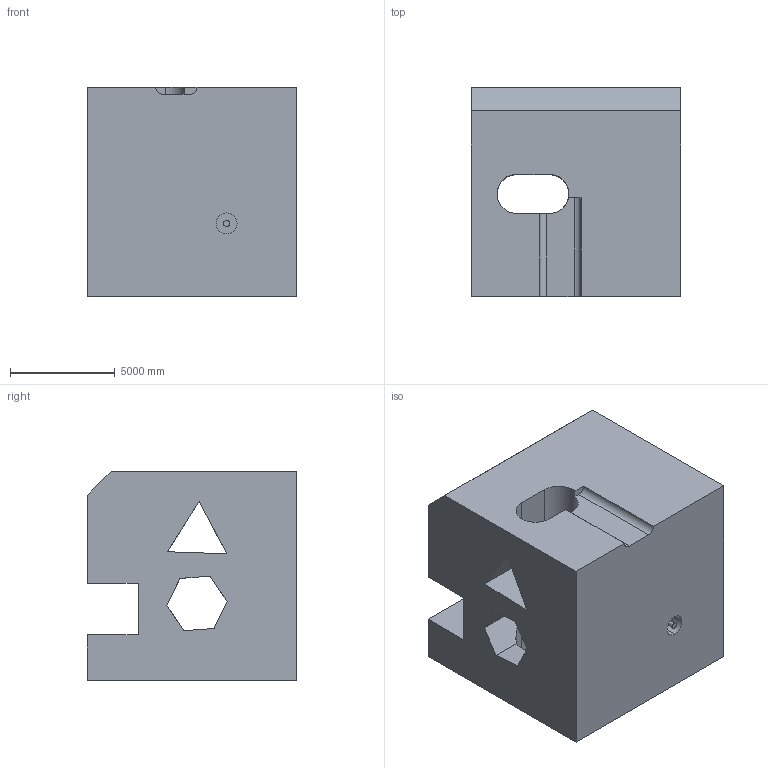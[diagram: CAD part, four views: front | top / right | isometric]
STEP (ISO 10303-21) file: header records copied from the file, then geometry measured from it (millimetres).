
FILE_DESCRIPTION (( 'STEP AP203' ), '1' );
FILE_NAME ('161.STEP', '2022-09-06T16:16:26', ( 'user' ), ( '' ), 'SwSTEP 2.0', 'SolidWorks 2021', '' );
FILE_SCHEMA (( 'CONFIG_CONTROL_DESIGN' ));
Length unit declared in the file: centimetre
Products named in the file (1): 161
Bounding box: 10000 x 10000 x 10000 mm (x, y, z)
Volume: 807805112147.2 mm3; surface area: 804548377.6 mm2
Topology: 1 solids, 1 shells, 46 faces, 138 edges, 92 vertices
Faces by surface type: plane 31, cylinder 15
Entity records: 1638 total; most frequent: CARTESIAN_POINT 337, ORIENTED_EDGE 276, DIRECTION 231, EDGE_CURVE 138, VECTOR 99, LINE 99, VERTEX_POINT 92, AXIS2_PLACEMENT_3D 66
